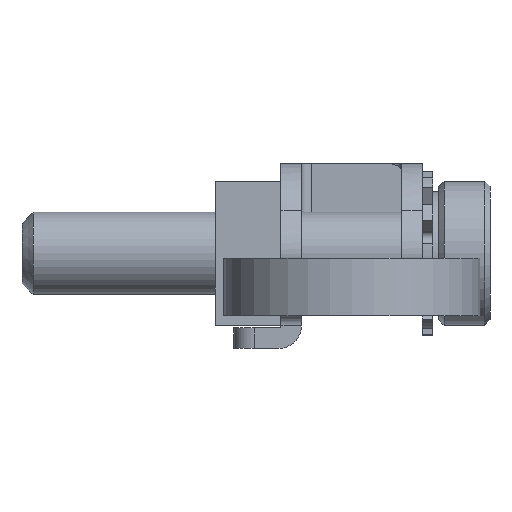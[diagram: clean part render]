
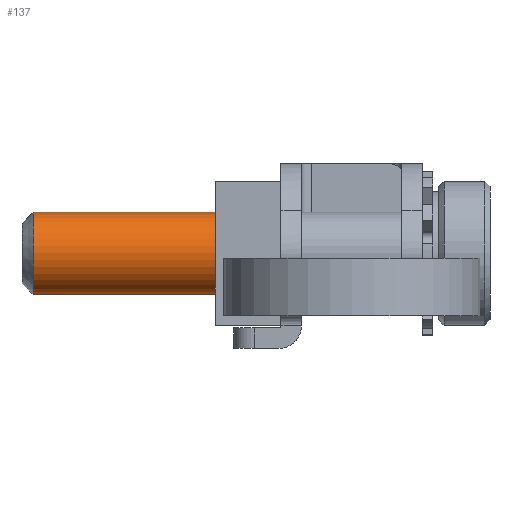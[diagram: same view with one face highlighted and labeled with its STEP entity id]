
A CAD part, front view. The second image highlights one B-rep face of the part: STEP entity #137.
In plain terms, the highlighted cylindrical face has radius 2 mm (diameter 4 mm), a full revolution.
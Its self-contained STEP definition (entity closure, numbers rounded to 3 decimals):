
#137 = ADVANCED_FACE( '', ( #356, #357 ), #358, .T. );
#356 = FACE_OUTER_BOUND( '', #666, .T. );
#357 = FACE_OUTER_BOUND( '', #667, .T. );
#358 = CYLINDRICAL_SURFACE( '', #668, 2. );
#666 = EDGE_LOOP( '', ( #1338 ) );
#667 = EDGE_LOOP( '', ( #1339 ) );
#668 = AXIS2_PLACEMENT_3D( '', #1340, #1341, #1342 );
#1338 = ORIENTED_EDGE( '', *, *, #2246, .F. );
#1339 = ORIENTED_EDGE( '', *, *, #2297, .T. );
#1340 = CARTESIAN_POINT( '', ( 6.742, 13.261, 1.63 ) );
#1341 = DIRECTION( '', ( -1., 0., 0. ) );
#1342 = DIRECTION( '', ( 0., 0., -1. ) );
#2246 = EDGE_CURVE( '', #2783, #2783, #2784, .T. );
#2297 = EDGE_CURVE( '', #2853, #2853, #2854, .T. );
#2783 = VERTEX_POINT( '', #3577 );
#2784 = CIRCLE( '', #3578, 2. );
#2853 = VERTEX_POINT( '', #3664 );
#2854 = CIRCLE( '', #3665, 2. );
#3577 = CARTESIAN_POINT( '', ( -6.643, 13.261, -0.37 ) );
#3578 = AXIS2_PLACEMENT_3D( '', #4211, #4212, #4213 );
#3664 = CARTESIAN_POINT( '', ( -15.518, 13.261, -0.37 ) );
#3665 = AXIS2_PLACEMENT_3D( '', #4330, #4331, #4332 );
#4211 = CARTESIAN_POINT( '', ( -6.643, 13.261, 1.63 ) );
#4212 = DIRECTION( '', ( 1., 0., 0. ) );
#4213 = DIRECTION( '', ( 0., 0., -1. ) );
#4330 = CARTESIAN_POINT( '', ( -15.518, 13.261, 1.63 ) );
#4331 = DIRECTION( '', ( 1., 0., 0. ) );
#4332 = DIRECTION( '', ( 0., 0., -1. ) );
